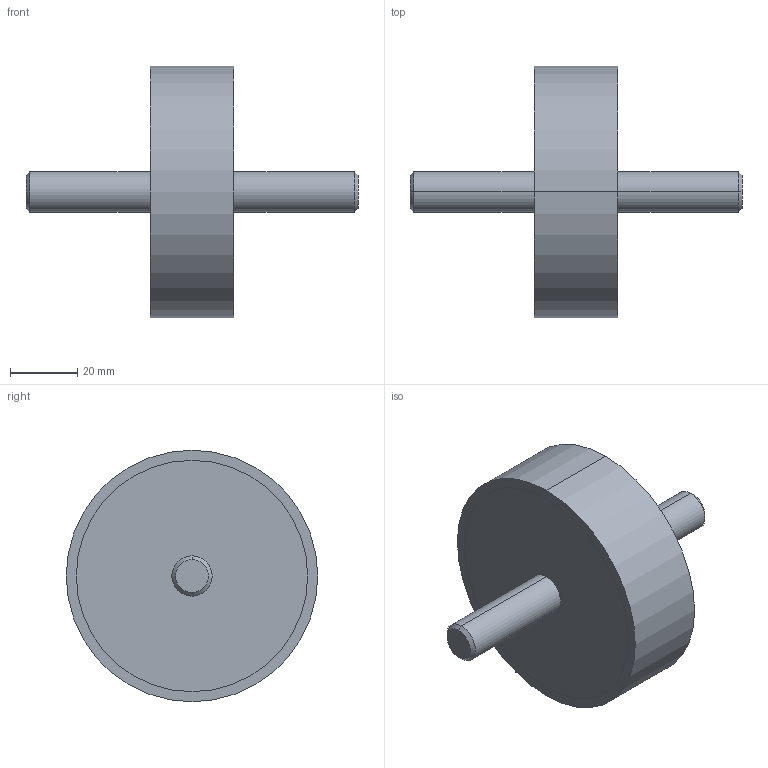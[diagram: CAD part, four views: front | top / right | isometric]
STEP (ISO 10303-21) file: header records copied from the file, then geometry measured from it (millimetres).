
FILE_DESCRIPTION (( 'STEP AP214' ), '1' );
FILE_NAME ('351-75-25-M12-SS-40.step', '2025-07-23T10:02:44', ( '' ), ( '' ), 'SwSTEP 2.0', 'SolidWorks 2022', '' );
FILE_SCHEMA (( 'AUTOMOTIVE_DESIGN' ));
Length unit declared in the file: millimetre
Products named in the file (1): 351-75-25-M12-SS-40
Bounding box: 99 x 75 x 75 mm (x, y, z)
Volume: 118700.5 mm3; surface area: 17469.3 mm2
Topology: 1 solids, 1 shells, 20 faces, 38 edges, 24 vertices
Faces by surface type: cylinder 10, plane 6, cone 4
Entity records: 636 total; most frequent: DIRECTION 104, CARTESIAN_POINT 83, ORIENTED_EDGE 76, AXIS2_PLACEMENT_3D 45, EDGE_CURVE 38, VERTEX_POINT 24, CIRCLE 24, EDGE_LOOP 24
